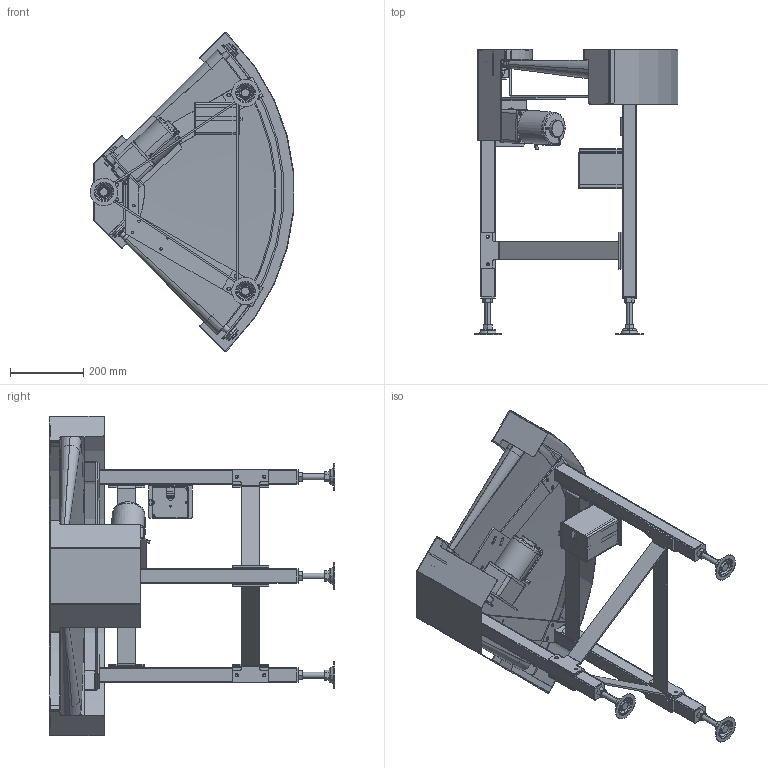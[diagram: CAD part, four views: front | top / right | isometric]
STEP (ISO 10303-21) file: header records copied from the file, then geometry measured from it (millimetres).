
FILE_DESCRIPTION(/* description */ (''),/* implementation_level */ '2;1');
FILE_NAME(/* name */ 'beltconveyor_a010_w300_ang90.stp',/* time_stamp */ '2024-12-15T01:56:48+08:00',/* author */ (''),/* organization */ (''),/* preprocessor_version */ 'ST-DEVELOPER v16.7',/* originating_system */ 'SIEMENS PLM Software NX 12.0',/* authorisation */ '');
FILE_SCHEMA (('AUTOMOTIVE_DESIGN { 1 0 10303 214 3 1 1 1 }'));
Length unit declared in the file: inch
Products named in the file (31): Imported2; Imported113971; Imported29; roller1; bracket1; frame1; Imported24; Imported25; Imported18; roller2; belt; frame4; Imported10; jack; cover11; Imported6; cover1; Imported8; Imported23; Imported7; bracket2; cover10; Imported15; stay2; stay1; Imported19; Imported9; Imported3; box; Imported1; beltconveyor_a010_w300_ang90
Assembly tree (41 placements, depth 3):
  beltconveyor_a010_w300_ang90
    box
    Imported3
    Imported1
      Imported113971
      Imported2
    Imported9
    Imported19  x3
    stay1  x2
    stay2  x2
    Imported15  x2
    cover10
    bracket2
    Imported7  x2
    Imported23
    Imported8  x4
    cover1
    Imported6
    cover11
    jack  x3
    Imported10
    frame4
    belt
    roller2
    Imported18
    Imported25
    Imported24
    frame1
    bracket1
    roller1
    Imported29
Bounding box: 557.16 x 780.5 x 873.8 mm (x, y, z)
Volume: 5951506.9 mm3; surface area: 3510664.7 mm2
Topology: 69 solids, 69 shells, 2257 faces, 5965 edges, 3942 vertices
Faces by surface type: plane 1007, cylinder 849, cone 152, extrusion 123, torus 71, bspline 55
Full cylindrical faces by diameter (mm): 15 x3, 17 x2
Entity records: 66215 total; most frequent: CARTESIAN_POINT 18637, ORIENTED_EDGE 9936, DIRECTION 9186, EDGE_CURVE 4968, VERTEX_POINT 3308, AXIS2_PLACEMENT_3D 3248, VECTOR 2690, LINE 2567
